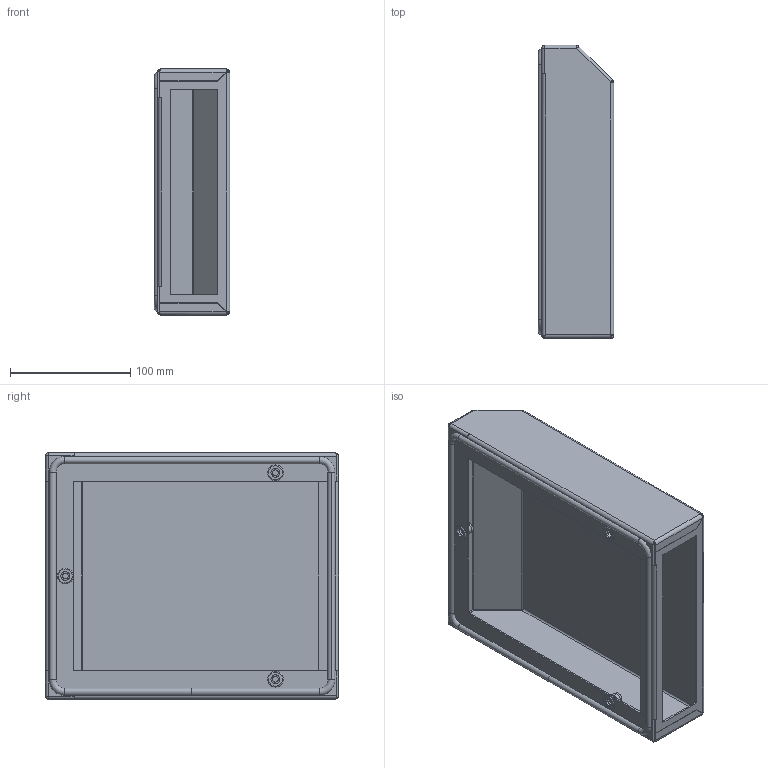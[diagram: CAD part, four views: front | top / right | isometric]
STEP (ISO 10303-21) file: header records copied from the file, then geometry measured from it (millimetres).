
FILE_DESCRIPTION (( 'STEP AP203' ), '1' );
FILE_NAME ('R 12 FA 01.000 ﾑﾁ ﾊ鮻 鈞隆 蓁 粢炅齏.STEP', '2022-04-12T13:11:38', ( '' ), ( '' ), 'SwSTEP 2.0', 'SolidWorks 2018', '' );
FILE_SCHEMA (( 'CONFIG_CONTROL_DESIGN' ));
Length unit declared in the file: millimetre
Products named in the file (4): R 12 FA 01.000 ﾑﾁ ﾊ鮻 鈞隆 蓁 粢炅齏; 逄鋋襡樇鳺 鼨錒膰膼碭嬅R 12 FA S; R 12 FA 00.001 ﾊ鮻 鈞隆 蓁 粢炅齏_R 12 FA 00.001 EPLAN; Çàêëåïêà îö. âûòÿæíàÿ ðåçüáîâàÿ ðèôëåíàÿ Ì6_ƒ ©ª  Œ6 ¢ëâï¦­ ï - S2.0
Assembly tree (5 placements, depth 2):
  R 12 FA 01.000 ﾑﾁ ﾊ鮻 鈞隆 蓁 粢炅齏
    R 12 FA 00.001 ﾊ鮻 鈞隆 蓁 粢炅齏_R 12 FA 00.001 EPLAN
    逄鋋襡樇鳺 鼨錒膰膼碭嬅R 12 FA S
    Çàêëåïêà îö. âûòÿæíàÿ ðåçüáîâàÿ ðèôëåíàÿ Ì6_ƒ ©ª  Œ6 ¢ëâï¦­ ï - S2.0  x3
Bounding box: 62.98 x 244.08 x 205 mm (x, y, z)
Volume: 162738.5 mm3; surface area: 229255.2 mm2
Topology: 5 solids, 5 shells, 201 faces, 451 edges, 266 vertices
Faces by surface type: plane 97, cylinder 66, torus 18, bspline 12, cone 6, sphere 2
Entity records: 5534 total; most frequent: CARTESIAN_POINT 1484, DIRECTION 756, ORIENTED_EDGE 734, EDGE_CURVE 367, AXIS2_PLACEMENT_3D 266, VECTOR 224, LINE 224, VERTEX_POINT 214
